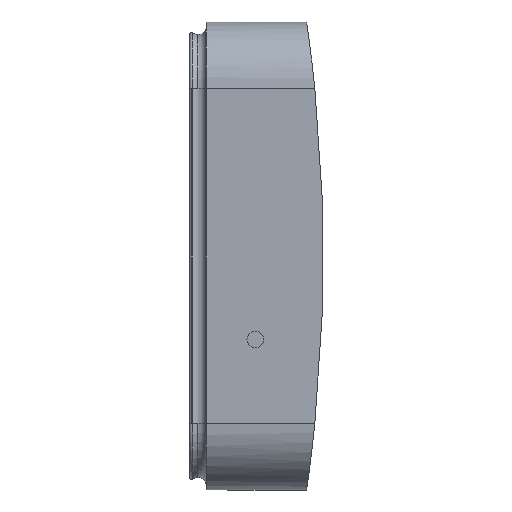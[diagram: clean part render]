
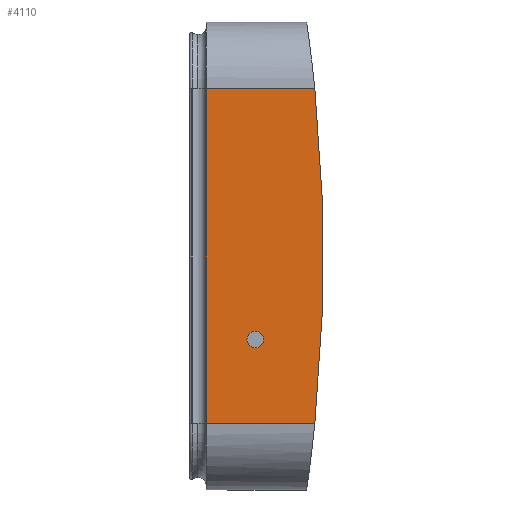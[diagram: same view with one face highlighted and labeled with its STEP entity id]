
A CAD part, left-side view. The second image highlights one B-rep face of the part: STEP entity #4110.
In plain terms, the highlighted planar face has unit normal (-1, 0, 0).
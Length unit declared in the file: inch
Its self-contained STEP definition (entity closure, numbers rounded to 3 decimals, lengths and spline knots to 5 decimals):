
#46 = FACE_OUTER_BOUND ( 'NONE', #8462, .T. ) ;
#238 = DIRECTION ( 'NONE',  ( -1., 0., 0. ) ) ;
#315 = ORIENTED_EDGE ( 'NONE', *, *, #12630, .F. ) ;
#601 = CARTESIAN_POINT ( 'NONE',  ( -3.25, 0.125, -1.25 ) ) ;
#615 = VECTOR ( 'NONE', #4559, 39.37008 ) ;
#905 = AXIS2_PLACEMENT_3D ( 'NONE', #11482, #4469, #6732 ) ;
#1072 = PLANE ( 'NONE',  #12185 ) ;
#1646 = ORIENTED_EDGE ( 'NONE', *, *, #12031, .T. ) ;
#1659 = VECTOR ( 'NONE', #3969, 39.37008 ) ;
#1787 = CARTESIAN_POINT ( 'NONE',  ( -3.25, 0.38414, -0.5625 ) ) ;
#1811 = LINE ( 'NONE', #5977, #1659 ) ;
#2510 = AXIS2_PLACEMENT_3D ( 'NONE', #4991, #9014, #12845 ) ;
#3230 = EDGE_CURVE ( 'NONE', #9669, #10018, #10910, .T. ) ;
#3269 = VERTEX_POINT ( 'NONE', #7008 ) ;
#3394 = LINE ( 'NONE', #601, #615 ) ;
#3810 = DIRECTION ( 'NONE',  ( 1., 0., 0. ) ) ;
#3969 = DIRECTION ( 'NONE',  ( 0., -1., 0. ) ) ;
#3996 = VERTEX_POINT ( 'NONE', #12445 ) ;
#4064 = CARTESIAN_POINT ( 'NONE',  ( -3.25, 12.1875, 0. ) ) ;
#4069 = DIRECTION ( 'NONE',  ( 0., 0., 1. ) ) ;
#4110 = ADVANCED_FACE ( 'NONE', ( #8932, #46 ), #1072, .F. ) ;
#4316 = AXIS2_PLACEMENT_3D ( 'NONE', #9254, #238, #4069 ) ;
#4469 = DIRECTION ( 'NONE',  ( -1., 0., 0. ) ) ;
#4559 = DIRECTION ( 'NONE',  ( 0., -1., 0. ) ) ;
#4935 = ORIENTED_EDGE ( 'NONE', *, *, #6483, .F. ) ;
#4991 = CARTESIAN_POINT ( 'NONE',  ( -3.25, 12.1875, 0. ) ) ;
#5338 = CARTESIAN_POINT ( 'NONE',  ( -3.25, 0.75, 1.25 ) ) ;
#5593 = CIRCLE ( 'NONE', #2510, 12.3125 ) ;
#5977 = CARTESIAN_POINT ( 'NONE',  ( -3.25, 0.125, 1.25 ) ) ;
#6402 = VERTEX_POINT ( 'NONE', #1787 ) ;
#6483 = EDGE_CURVE ( 'NONE', #6402, #3269, #10121, .T. ) ;
#6508 = CIRCLE ( 'NONE', #905, 0.0625 ) ;
#6644 = EDGE_LOOP ( 'NONE', ( #4935, #10389 ) ) ;
#6732 = DIRECTION ( 'NONE',  ( 0., 0., 1. ) ) ;
#7008 = CARTESIAN_POINT ( 'NONE',  ( -3.25, 0.38414, -0.6875 ) ) ;
#7424 = EDGE_CURVE ( 'NONE', #3269, #6402, #6508, .T. ) ;
#8462 = EDGE_LOOP ( 'NONE', ( #315, #11945, #1646, #11749 ) ) ;
#8831 = DIRECTION ( 'NONE',  ( 0., 0., -1. ) ) ;
#8932 = FACE_BOUND ( 'NONE', #6644, .T. ) ;
#9014 = DIRECTION ( 'NONE',  ( 1., 0., 0. ) ) ;
#9254 = CARTESIAN_POINT ( 'NONE',  ( -3.25, 0.38414, -0.625 ) ) ;
#9669 = VERTEX_POINT ( 'NONE', #5338 ) ;
#9733 = EDGE_CURVE ( 'NONE', #10922, #3996, #5593, .T. ) ;
#10018 = VERTEX_POINT ( 'NONE', #12326 ) ;
#10121 = CIRCLE ( 'NONE', #4316, 0.0625 ) ;
#10389 = ORIENTED_EDGE ( 'NONE', *, *, #7424, .F. ) ;
#10826 = VECTOR ( 'NONE', #8831, 39.37008 ) ;
#10910 = LINE ( 'NONE', #10972, #10826 ) ;
#10922 = VERTEX_POINT ( 'NONE', #11633 ) ;
#10972 = CARTESIAN_POINT ( 'NONE',  ( -3.25, 0.75, 1.25 ) ) ;
#11482 = CARTESIAN_POINT ( 'NONE',  ( -3.25, 0.38414, -0.625 ) ) ;
#11633 = CARTESIAN_POINT ( 'NONE',  ( -3.25, -0.06138, 1.25 ) ) ;
#11749 = ORIENTED_EDGE ( 'NONE', *, *, #9733, .F. ) ;
#11945 = ORIENTED_EDGE ( 'NONE', *, *, #3230, .T. ) ;
#12031 = EDGE_CURVE ( 'NONE', #10018, #3996, #3394, .T. ) ;
#12185 = AXIS2_PLACEMENT_3D ( 'NONE', #4064, #3810, #12700 ) ;
#12326 = CARTESIAN_POINT ( 'NONE',  ( -3.25, 0.75, -1.25 ) ) ;
#12445 = CARTESIAN_POINT ( 'NONE',  ( -3.25, -0.06138, -1.25 ) ) ;
#12630 = EDGE_CURVE ( 'NONE', #9669, #10922, #1811, .T. ) ;
#12700 = DIRECTION ( 'NONE',  ( 0., 0., -1. ) ) ;
#12845 = DIRECTION ( 'NONE',  ( 0., 0., -1. ) ) ;
